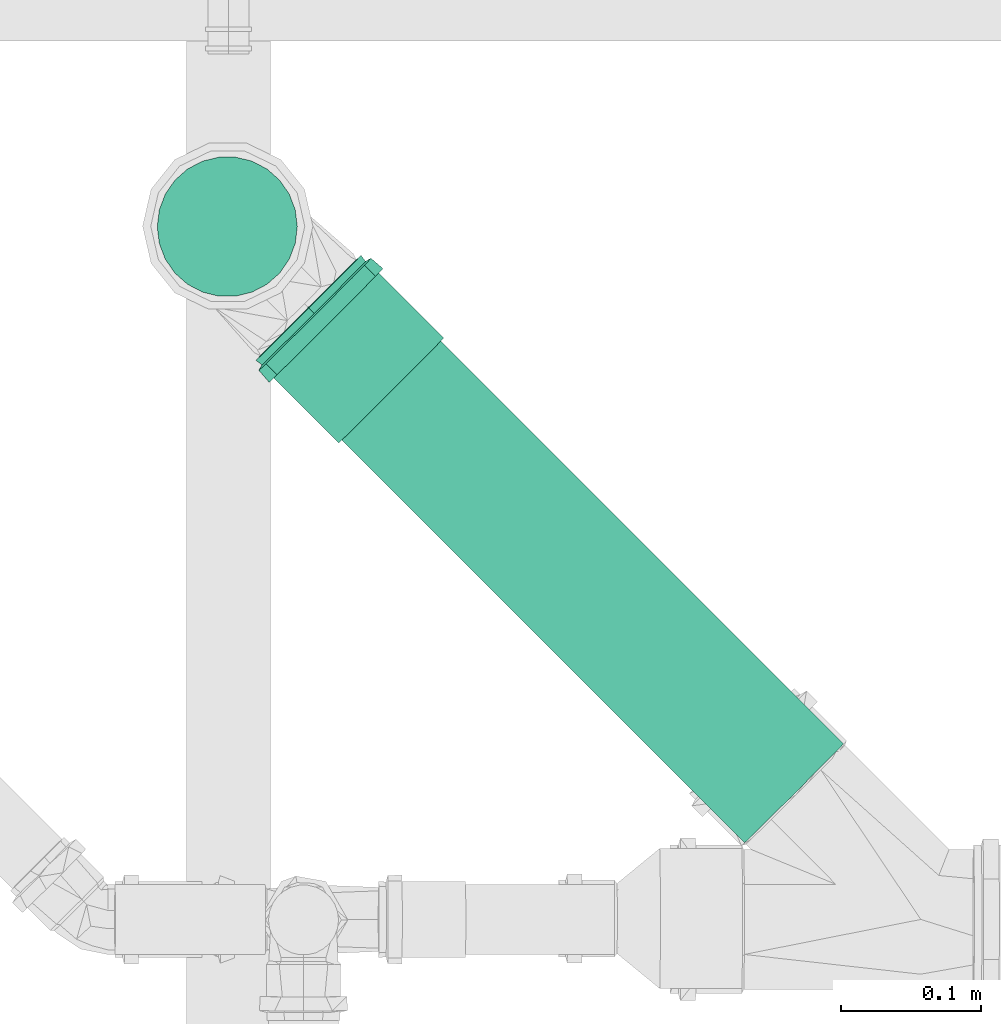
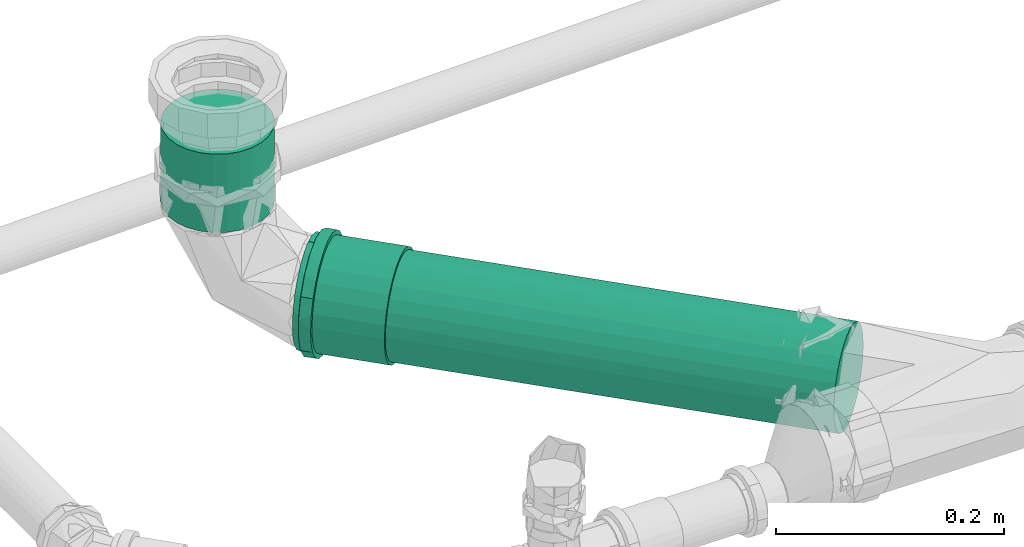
# One storey, part 285 of 589: 2 flow segments, 1 flow fitting.
"""IFC2X3 building model written with IfcOpenShell, lengths in millimetres."""

from ifc_helpers import new_model, entity, si_unit, converted_unit, derived_unit, direction, frame, frame_2d, origin, origin_2d_with_axis, place, context, subcontext, project, spatial, circle, extrude, faceted_brep, source, transform, mapped, material, type_object, type_shapes, element, save


model = new_model("IFC2X3")

# Units and contexts
model_context = context("Model", 3, precision=0.01, world=origin(), true_north=direction((6.123031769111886e-17, 1.0)))
body_context = subcontext(model_context, "Body", "Model", "MODEL_VIEW")
ifc_project = project(units=[si_unit("LENGTHUNIT", "METRE", prefix="MILLI"), si_unit("AREAUNIT", "SQUARE_METRE"), si_unit("VOLUMEUNIT", "CUBIC_METRE"), converted_unit("PLANEANGLEUNIT", "DEGREE", entity("IfcRatioMeasure", 0.017453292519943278), si_unit("PLANEANGLEUNIT", "RADIAN"), dimensions=[0, 0, 0, 0, 0, 0, 0]), si_unit("MASSUNIT", "GRAM", prefix="KILO"), derived_unit("MASSDENSITYUNIT", [(si_unit("MASSUNIT", "GRAM", prefix="KILO"), 1), (si_unit("LENGTHUNIT", "METRE"), -3)]), derived_unit("IONCONCENTRATIONUNIT", [(si_unit("MASSUNIT", "GRAM", prefix="KILO"), 1), (si_unit("LENGTHUNIT", "METRE"), -3)]), derived_unit("MOMENTOFINERTIAUNIT", [(si_unit("LENGTHUNIT", "METRE"), 4)]), si_unit("TIMEUNIT", "SECOND"), si_unit("FREQUENCYUNIT", "HERTZ"), si_unit("THERMODYNAMICTEMPERATUREUNIT", "DEGREE_CELSIUS"), derived_unit("THERMALTRANSMITTANCEUNIT", [(si_unit("MASSUNIT", "GRAM", prefix="KILO"), 1), (si_unit("THERMODYNAMICTEMPERATUREUNIT", "KELVIN"), -1), (si_unit("TIMEUNIT", "SECOND"), -3)]), derived_unit("THERMALCONDUCTANCEUNIT", [(si_unit("MASSUNIT", "GRAM", prefix="KILO"), 1), (si_unit("THERMODYNAMICTEMPERATUREUNIT", "KELVIN"), -1), (si_unit("TIMEUNIT", "SECOND"), -3), (si_unit("LENGTHUNIT", "METRE"), 1)]), derived_unit("VOLUMETRICFLOWRATEUNIT", [(si_unit("LENGTHUNIT", "METRE"), 3), (si_unit("TIMEUNIT", "SECOND"), -1)]), derived_unit("MASSFLOWRATEUNIT", [(si_unit("MASSUNIT", "GRAM", prefix="KILO"), 1), (si_unit("TIMEUNIT", "SECOND"), -1)]), derived_unit("ROTATIONALFREQUENCYUNIT", [(si_unit("TIMEUNIT", "SECOND"), -1)]), si_unit("ELECTRICCURRENTUNIT", "AMPERE"), si_unit("ELECTRICVOLTAGEUNIT", "VOLT"), si_unit("POWERUNIT", "WATT"), si_unit("FORCEUNIT", "NEWTON", prefix="KILO"), si_unit("ILLUMINANCEUNIT", "LUX"), si_unit("LUMINOUSFLUXUNIT", "LUMEN"), si_unit("LUMINOUSINTENSITYUNIT", "CANDELA"), derived_unit("USERDEFINED", [(si_unit("MASSUNIT", "GRAM", prefix="KILO"), -1), (si_unit("LENGTHUNIT", "METRE"), -2), (si_unit("TIMEUNIT", "SECOND"), 3), (si_unit("LUMINOUSFLUXUNIT", "LUMEN"), 1)]), derived_unit("USERDEFINED", [(si_unit("MASSUNIT", "GRAM", prefix="KILO"), 1), (si_unit("TIMEUNIT", "SECOND"), -3), (si_unit("LENGTHUNIT", "METRE"), 3), (si_unit("ELECTRICCURRENTUNIT", "AMPERE"), -2)]), derived_unit("SOUNDPOWERUNIT", [(si_unit("MASSUNIT", "GRAM", prefix="KILO"), 1), (si_unit("TIMEUNIT", "SECOND"), -3), (si_unit("LENGTHUNIT", "METRE"), 2)]), derived_unit("SOUNDPRESSUREUNIT", [(si_unit("MASSUNIT", "GRAM", prefix="KILO"), 1), (si_unit("LENGTHUNIT", "METRE"), -1), (si_unit("TIMEUNIT", "SECOND"), -2)]), derived_unit("LINEARVELOCITYUNIT", [(si_unit("LENGTHUNIT", "METRE"), 1), (si_unit("TIMEUNIT", "SECOND"), -1)]), si_unit("PRESSUREUNIT", "PASCAL"), derived_unit("USERDEFINED", [(si_unit("MASSUNIT", "GRAM", prefix="KILO"), 1), (si_unit("LENGTHUNIT", "METRE"), -2), (si_unit("TIMEUNIT", "SECOND"), -2)]), derived_unit("LINEARFORCEUNIT", [(si_unit("MASSUNIT", "GRAM", prefix="KILO"), 1), (si_unit("TIMEUNIT", "SECOND"), -2)]), derived_unit("PLANARFORCEUNIT", [(si_unit("MASSUNIT", "GRAM", prefix="KILO"), 1), (si_unit("LENGTHUNIT", "METRE"), -1), (si_unit("TIMEUNIT", "SECOND"), -2)]), derived_unit("SPECIFICHEATCAPACITYUNIT", [(si_unit("THERMODYNAMICTEMPERATUREUNIT", "KELVIN"), -1), (si_unit("LENGTHUNIT", "METRE"), 2), (si_unit("TIMEUNIT", "SECOND"), -2)]), derived_unit("HEATINGVALUEUNIT", [(si_unit("LENGTHUNIT", "METRE"), 2), (si_unit("TIMEUNIT", "SECOND"), -2)]), derived_unit("VAPORPERMEABILITYUNIT", [(si_unit("LENGTHUNIT", "METRE"), -1), (si_unit("TIMEUNIT", "SECOND"), 1)]), derived_unit("DYNAMICVISCOSITYUNIT", [(si_unit("MASSUNIT", "GRAM", prefix="KILO"), 1), (si_unit("TIMEUNIT", "SECOND"), -1), (si_unit("LENGTHUNIT", "METRE"), -1)]), derived_unit("THERMALEXPANSIONCOEFFICIENTUNIT", [(si_unit("THERMODYNAMICTEMPERATUREUNIT", "KELVIN"), -1)]), derived_unit("MODULUSOFELASTICITYUNIT", [(si_unit("MASSUNIT", "GRAM", prefix="KILO"), 1), (si_unit("LENGTHUNIT", "METRE"), -1), (si_unit("TIMEUNIT", "SECOND"), -2)]), derived_unit("ISOTHERMALMOISTURECAPACITYUNIT", [(si_unit("LENGTHUNIT", "METRE"), 3), (si_unit("MASSUNIT", "GRAM", prefix="KILO"), -1)]), derived_unit("MOISTUREDIFFUSIVITYUNIT", [(si_unit("TIMEUNIT", "SECOND"), -1), (si_unit("LENGTHUNIT", "METRE"), 2)])], contexts=[model_context])

# Site, building, storey
site_placement = place(None, origin())
site = spatial("IfcSite", under=ifc_project, at=site_placement, Name="Default", CompositionType="ELEMENT")
building_placement = place(site_placement, origin())
building = spatial("IfcBuilding", under=site, at=building_placement, CompositionType="ELEMENT")
storey_placement = place(building_placement, frame((0.0, 0.0, 100.0)))
storey = spatial("IfcBuildingStorey", under=building, at=storey_placement, Name="TÉRREO", CompositionType="ELEMENT", Elevation=100.0)

# Flow segments
pipe_segment_type = type_object("IfcPipeSegmentType", Name="Tipos de tubos:PVC Esgoto Série Normal", PredefinedType="NOTDEFINED")
flow_segment_1_placement = place(storey_placement, origin())
element("IfcFlowSegment", 1, at=flow_segment_1_placement, inside=storey, type_object=pipe_segment_type, Name="Tipos de tubos:PVC Esgoto Série Normal", ObjectType="Tipos de tubos:PVC Esgoto Série Normal", context=body_context, shape_type="SweptSolid", body=[
    extrude(circle(Radius=50.0, at=frame_2d((0.0, -3.3838751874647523e-14), x_axis=(1.0, 0.0))), frame((6458.527878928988, 6788.692753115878, -219.85893770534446), z_axis=(-0.7071067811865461, 0.7070714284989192, 0.0070707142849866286), x_axis=(-0.7070891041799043, -0.7071244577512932, 0.0)), (0.0, 0.0, 1.0), 490.3068071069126),
])
flow_segment_2_placement = place(storey_placement, origin())
element("IfcFlowSegment", 2, at=flow_segment_2_placement, inside=storey, type_object=pipe_segment_type, Name="Tipos de tubos:PVC Esgoto Série Normal", ObjectType="Tipos de tubos:PVC Esgoto Série Normal", context=body_context, shape_type="SweptSolid", body=[
    extrude(circle(Radius=50.0, at=origin_2d_with_axis()), frame((6053.880912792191, 7193.31948842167, -133.8622499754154)), (0.0, 0.0, 1.0), 83.86224997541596),
])

# Flow fitting
ifc_material = material(Name="PVC Série Normal")
pipe_fitting_type = type_object("IfcPipeFittingType", Name="PVC Esgoto_Luva Simples para Conexão_Rodrigo MEP:Standard", PredefinedType="NOTDEFINED", material=ifc_material)
shared_shape = source(origin(), body_context, "Body", "Brep", [
    faceted_brep([(17.770000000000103, 28.72500000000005, -49.753159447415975), (17.770000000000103, 40.62328457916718, -40.62328457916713), (17.770000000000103, 26.524999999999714, -45.94264767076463), (17.770000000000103, 13.730350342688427, -51.242365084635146), (17.770000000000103, 14.86915414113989, -55.49243872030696), (17.770000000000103, 37.5120147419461, -37.51201474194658), (17.770000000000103, 49.75315944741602, -28.724999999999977), (17.770000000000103, 45.94264767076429, -26.52500000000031), (17.770000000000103, 51.24236508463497, -13.730350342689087), (17.770000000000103, 55.49243872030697, -14.869154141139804), (17.770000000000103, 53.05, 0.0), (17.770000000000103, 57.45, 0.0), (17.770000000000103, 51.242365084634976, 13.730350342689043), (17.770000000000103, 55.49243872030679, 14.869154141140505), (17.770000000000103, 45.942647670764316, 26.52500000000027), (17.770000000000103, 49.753159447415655, 28.725000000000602), (17.770000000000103, 37.51201474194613, 37.51201474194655), (17.770000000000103, 40.62328457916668, 40.62328457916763), (17.770000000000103, 26.524999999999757, 45.9426476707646), (17.770000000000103, 28.72499999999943, 49.75315944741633), (17.770000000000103, 13.730350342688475, 51.24236508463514), (17.770000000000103, 14.8691541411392, 55.49243872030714), (17.770000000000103, 0.0, 53.05), (17.770000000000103, 0.0, 57.45), (17.770000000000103, -13.730350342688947, 51.24236508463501), (17.770000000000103, -14.869154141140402, 55.49243872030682), (17.770000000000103, -26.52500000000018, 45.94264767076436), (17.770000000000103, -28.725000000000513, 49.753159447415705), (17.770000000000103, -37.51201474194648, 37.5120147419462), (17.770000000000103, -40.62328457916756, 40.62328457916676), (17.770000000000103, -45.94264767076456, 26.524999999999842), (17.770000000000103, -49.7531594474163, 28.724999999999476), (17.770000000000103, -55.49243872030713, 14.869154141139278), (17.770000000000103, -51.24236508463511, 13.730350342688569), (17.770000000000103, -57.45, 0.0), (17.770000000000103, -53.05, 0.0), (17.770000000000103, -55.49243872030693, -14.86915414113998), (17.770000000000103, -51.24236508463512, -13.73035034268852), (17.770000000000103, -49.75315944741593, -28.72500000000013), (17.770000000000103, -45.942647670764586, -26.5249999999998), (17.770000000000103, -40.62328457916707, -40.62328457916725), (17.770000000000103, -37.512014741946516, -37.51201474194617), (17.770000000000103, -28.724999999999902, -49.75315944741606), (17.770000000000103, -26.525000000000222, -45.94264767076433), (17.770000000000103, -14.869154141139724, -55.492438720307), (17.770000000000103, -13.730350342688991, -51.242365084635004), (17.770000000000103, 0.0, -57.45), (17.770000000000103, 0.0, -53.05), (6.570000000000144, -19.34638876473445, 53.16657713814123), (6.57000000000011, -44.00761900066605, 36.93009572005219), (6.5700000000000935, -48.99626263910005, 28.290173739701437), (6.5700000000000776, -53.98490627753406, 19.65025175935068), (6.570000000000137, -28.721697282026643, 49.75506612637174), (6.570000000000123, -36.36465814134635, 43.34258092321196), (6.57000000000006, -55.71745313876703, 9.825125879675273), (6.570000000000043, -57.45, 0.0), (6.570000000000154, -9.971080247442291, 56.57808814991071), (6.570000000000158, 9.98234714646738, 56.576101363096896), (6.570000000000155, 0.005633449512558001, 56.577094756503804), (6.570000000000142, 36.37328876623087, 43.33533831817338), (6.570000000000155, 19.356976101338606, 53.16272339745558), (6.570000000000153, 28.73160505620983, 49.749345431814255), (6.5700000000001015, 53.988818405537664, 19.639500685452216), (6.570000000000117, 49.00189544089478, 28.280415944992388), (6.570000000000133, 44.01497247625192, 36.921331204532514), (6.570000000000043, 57.45, 0.0), (6.569999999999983, 44.01497247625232, -36.92133120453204), (6.569999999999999, 49.0018954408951, -28.280415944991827), (6.570000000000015, 53.98881840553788, -19.63950068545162), (6.569999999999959, 28.731605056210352, -49.74934543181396), (6.569999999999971, 36.37328876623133, -43.335338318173), (6.569999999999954, 19.35697610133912, -53.16272339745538), (6.569999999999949, 9.982347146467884, -56.57610136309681), (6.569999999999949, -9.97108024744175, -56.578088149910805), (6.569999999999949, 0.005633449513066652, -56.577094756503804), (6.569999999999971, -36.364658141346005, -43.34258092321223), (6.56999999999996, -28.72169728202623, -49.755066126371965), (6.569999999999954, -19.346388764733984, -53.16657713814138), (6.57000000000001, -53.984906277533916, -19.650251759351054), (6.569999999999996, -48.99626263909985, -28.290173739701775), (6.569999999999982, -44.007619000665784, -36.93009572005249), (6.570000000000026, -55.717453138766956, -9.825125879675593), (83.52000000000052, 26.525000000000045, -45.942647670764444), (83.52000000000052, 37.512014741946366, -37.51201474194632), (83.52000000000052, 25.0, -43.301270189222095), (83.52000000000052, 12.940952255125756, -48.2962913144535), (83.52000000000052, 13.73035034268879, -51.242365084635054), (83.52000000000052, 35.35533905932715, -35.355339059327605), (83.52000000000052, 45.94264767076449, -26.524999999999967), (83.52000000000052, 43.30127018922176, -25.0), (83.52000000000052, 48.29629131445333, -12.940952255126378), (83.52000000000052, 51.24236508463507, -13.730350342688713), (83.52000000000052, 50.0, 0.0), (83.52000000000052, 53.05, 0.0), (83.52000000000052, 48.296291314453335, 12.940952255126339), (83.52000000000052, 51.2423650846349, 13.73035034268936), (83.52000000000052, 43.30127018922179, 25.0), (83.52000000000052, 45.942647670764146, 26.525000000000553), (83.52000000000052, 35.35533905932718, 35.35533905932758), (83.52000000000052, 37.512014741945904, 37.512014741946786), (83.52000000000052, 25.0, 43.301270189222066), (83.52000000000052, 26.52499999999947, 45.94264767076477), (83.52000000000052, 12.9409522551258, 48.29629131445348), (83.52000000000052, 13.730350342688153, 51.242365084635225), (83.52000000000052, 0.0, 50.0), (83.52000000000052, 0.0, 53.05), (83.52000000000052, -12.94095225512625, 48.296291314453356), (83.52000000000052, -13.730350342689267, 51.24236508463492), (83.52000000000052, -25.0, 43.30127018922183), (83.52000000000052, -26.525000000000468, 45.942647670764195), (83.52000000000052, -35.355339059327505, 35.35533905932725), (83.52000000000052, -37.512014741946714, 37.51201474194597), (83.52000000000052, -43.30127018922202, 25.0), (83.52000000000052, -45.942647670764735, 26.524999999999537), (83.52000000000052, -51.24236508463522, 13.730350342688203), (83.52000000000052, -48.29629131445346, 12.94095225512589), (83.52000000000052, -53.05, 0.0), (83.52000000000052, -50.0, 0.0), (83.52000000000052, -51.242365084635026, -13.730350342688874), (83.52000000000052, -48.29629131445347, -12.940952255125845), (83.52000000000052, -45.9426476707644, -26.525000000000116), (83.52000000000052, -43.301270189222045, -25.0), (83.52000000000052, -37.51201474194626, -37.51201474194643), (83.52000000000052, -35.35533905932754, -35.355339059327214), (83.52000000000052, -26.524999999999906, -45.94264767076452), (83.52000000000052, -25.0, -43.30127018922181), (83.52000000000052, -13.730350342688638, -51.2423650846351), (83.52000000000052, -12.94095225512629, -48.29629131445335), (83.52000000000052, 0.0, -53.05), (83.52000000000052, 0.0, -50.0), (0.0, 25.0, -43.301270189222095), (0.0, 37.512014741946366, -37.51201474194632), (0.0, 26.525000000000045, -45.942647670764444), (0.0, 12.940952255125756, -48.2962913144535), (0.0, 35.35533905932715, -35.355339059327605), (0.0, 45.94264767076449, -26.524999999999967), (0.0, 43.30127018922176, -25.0), (0.0, 48.29629131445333, -12.940952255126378), (0.0, 51.24236508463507, -13.730350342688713), (0.0, 50.0, 0.0), (0.0, 53.05, 0.0), (0.0, 48.296291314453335, 12.940952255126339), (0.0, 51.2423650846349, 13.73035034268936), (0.0, 43.30127018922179, 25.0), (0.0, 45.942647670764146, 26.525000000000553), (0.0, 35.35533905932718, 35.35533905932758), (0.0, 37.512014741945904, 37.512014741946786), (0.0, 25.0, 43.301270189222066), (0.0, 26.52499999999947, 45.94264767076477), (0.0, 12.9409522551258, 48.29629131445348), (0.0, 13.730350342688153, 51.242365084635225), (0.0, 0.0, 50.0), (0.0, 0.0, 53.05), (0.0, -12.94095225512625, 48.296291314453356), (0.0, -13.730350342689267, 51.24236508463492), (0.0, -25.0, 43.30127018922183), (0.0, -26.525000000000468, 45.942647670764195), (0.0, -35.355339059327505, 35.35533905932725), (0.0, -37.512014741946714, 37.51201474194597), (0.0, -43.30127018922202, 25.0), (0.0, -45.942647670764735, 26.524999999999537), (0.0, -51.24236508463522, 13.730350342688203), (0.0, -48.29629131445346, 12.94095225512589), (0.0, -53.05, 0.0), (0.0, -50.0, 0.0), (0.0, -51.242365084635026, -13.730350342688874), (0.0, -48.29629131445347, -12.940952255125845), (0.0, -45.9426476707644, -26.525000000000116), (0.0, -43.301270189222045, -25.0), (0.0, -37.51201474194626, -37.51201474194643), (0.0, -35.35533905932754, -35.355339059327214), (0.0, -26.524999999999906, -45.94264767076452), (0.0, -25.0, -43.30127018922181), (0.0, -13.730350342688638, -51.2423650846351), (0.0, -12.94095225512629, -48.29629131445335), (0.0, 0.0, -53.05), (0.0, 0.0, -50.0), (0.0, 13.73035034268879, -51.242365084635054), (5.370000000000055, -53.05, 0.0), (5.370000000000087, -49.85079898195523, 18.143878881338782), (5.370000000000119, -40.63905406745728, 34.09941032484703), (5.370000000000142, -26.525801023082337, 45.942185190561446), (5.3700000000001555, -9.213250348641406, 52.24383712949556), (5.370000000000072, 51.44992493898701, 9.073243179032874), (5.370000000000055, 53.05, 0.0), (5.370000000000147, 26.523397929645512, 45.943572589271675), (5.370000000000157, 9.210517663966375, 52.244318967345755), (5.3700000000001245, 40.63727040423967, 34.10153594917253), (5.370000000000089, 49.84984987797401, 18.146486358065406), (5.370000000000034, 51.4499249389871, -9.073243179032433), (5.370000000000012, 49.84984987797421, -18.146486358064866), (5.369999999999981, 40.63727040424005, -34.101535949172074), (5.36999999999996, 26.523397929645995, -45.9435725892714), (5.369999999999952, 9.21051766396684, -52.24431896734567), (5.369999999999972, -26.52580102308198, -45.94218519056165), (5.369999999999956, -9.213250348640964, -52.24383712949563), (5.369999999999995, -40.63905406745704, -34.099410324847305), (5.370000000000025, -49.8507989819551, -18.143878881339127), (50.0, -50.0, 0.0), (50.0, 50.0, 0.0)], [[[0, 1, 2]], [[0, 2, 3]], [[3, 4, 0]], [[2, 1, 5]], [[6, 5, 1]], [[5, 6, 7]], [[7, 6, 8]], [[9, 8, 6]], [[9, 10, 8]], [[10, 9, 11]], [[12, 10, 11]], [[11, 13, 12]], [[12, 13, 14]], [[15, 14, 13]], [[14, 15, 16]], [[16, 15, 17]], [[18, 16, 17]], [[17, 19, 18]], [[18, 19, 20]], [[21, 20, 19]], [[20, 21, 22]], [[22, 21, 23]], [[22, 23, 24]], [[24, 23, 25]], [[24, 25, 26]], [[27, 26, 25]], [[27, 28, 26]], [[28, 27, 29]], [[29, 30, 28]], [[31, 30, 29]], [[30, 31, 32]], [[32, 33, 30]], [[34, 33, 32]], [[34, 35, 33]], [[36, 35, 34]], [[36, 37, 35]], [[37, 36, 38]], [[38, 39, 37]], [[39, 38, 40]], [[39, 40, 41]], [[40, 42, 41]], [[41, 42, 43]], [[43, 42, 44]], [[44, 45, 43]], [[46, 45, 44]], [[4, 47, 46]], [[46, 47, 45]], [[4, 3, 47]], [[48, 27, 25]], [[31, 29, 49]], [[31, 49, 50, 51]], [[52, 53, 27]], [[32, 51, 54]], [[54, 55, 34]], [[54, 34, 32]], [[25, 56, 48]], [[49, 29, 53]], [[23, 57, 58, 56]], [[59, 19, 17]], [[27, 53, 29]], [[48, 52, 27]], [[31, 51, 32]], [[57, 23, 21]], [[60, 19, 61]], [[15, 62, 63, 64]], [[19, 60, 21]], [[15, 13, 62]], [[17, 64, 59]], [[57, 21, 60]], [[23, 56, 25]], [[15, 64, 17]], [[13, 65, 62]], [[13, 11, 65]], [[59, 61, 19]], [[65, 11, 9]], [[6, 1, 66]], [[6, 66, 67, 68]], [[69, 70, 0]], [[68, 65, 9]], [[71, 69, 0]], [[71, 0, 4]], [[4, 72, 71]], [[66, 1, 70]], [[46, 73, 74, 72]], [[75, 76, 42]], [[0, 70, 1]], [[75, 42, 40]], [[6, 68, 9]], [[73, 46, 44]], [[77, 42, 76]], [[38, 78, 79, 80]], [[42, 77, 44]], [[38, 36, 78]], [[40, 80, 75]], [[73, 44, 77]], [[46, 72, 4]], [[38, 80, 40]], [[81, 78, 36]], [[55, 81, 34]], [[34, 81, 36]], [[82, 83, 84]], [[82, 84, 85]], [[85, 86, 82]], [[84, 83, 87]], [[88, 87, 83]], [[87, 88, 89]], [[89, 88, 90]], [[91, 90, 88]], [[91, 92, 90]], [[92, 91, 93]], [[94, 92, 93]], [[93, 95, 94]], [[94, 95, 96]], [[97, 96, 95]], [[96, 97, 98]], [[98, 97, 99]], [[100, 98, 99]], [[99, 101, 100]], [[100, 101, 102]], [[103, 102, 101]], [[102, 103, 104]], [[104, 103, 105]], [[104, 105, 106]], [[106, 105, 107]], [[106, 107, 108]], [[109, 108, 107]], [[110, 108, 109]], [[110, 109, 111]], [[111, 112, 110]], [[113, 112, 111]], [[112, 113, 114]], [[114, 115, 112]], [[116, 115, 114]], [[116, 117, 115]], [[118, 117, 116]], [[118, 119, 117]], [[119, 118, 120]], [[120, 121, 119]], [[121, 120, 122]], [[121, 122, 123]], [[122, 124, 123]], [[125, 123, 124]], [[125, 124, 126]], [[126, 127, 125]], [[128, 127, 126]], [[86, 129, 128]], [[128, 129, 127]], [[86, 85, 129]], [[130, 131, 132]], [[133, 130, 132]], [[134, 131, 130]], [[131, 134, 135]], [[136, 135, 134]], [[137, 135, 136]], [[135, 137, 138]], [[137, 139, 138]], [[140, 138, 139]], [[140, 139, 141]], [[141, 142, 140]], [[143, 142, 141]], [[142, 143, 144]], [[145, 144, 143]], [[146, 144, 145]], [[146, 145, 147]], [[147, 148, 146]], [[149, 148, 147]], [[148, 149, 150]], [[151, 150, 149]], [[152, 150, 151]], [[153, 152, 151]], [[154, 152, 153]], [[155, 154, 153]], [[154, 155, 156]], [[156, 155, 157]], [[158, 156, 157]], [[157, 159, 158]], [[158, 159, 160]], [[161, 160, 159]], [[159, 162, 161]], [[161, 162, 163]], [[162, 164, 163]], [[163, 164, 165]], [[164, 166, 165]], [[167, 165, 166]], [[166, 168, 167]], [[169, 167, 168]], [[170, 169, 168]], [[170, 171, 169]], [[171, 170, 172]], [[173, 171, 172]], [[172, 174, 173]], [[173, 174, 175]], [[174, 176, 175]], [[176, 133, 177]], [[175, 176, 177]], [[132, 177, 133]], [[161, 178, 179]], [[158, 180, 181]], [[179, 180, 160]], [[181, 182, 154]], [[179, 160, 161]], [[161, 163, 178]], [[35, 116, 114, 33]], [[183, 184, 140]], [[181, 156, 158]], [[158, 160, 180]], [[181, 154, 156]], [[182, 152, 154]], [[183, 140, 142]], [[185, 150, 186]], [[187, 146, 185]], [[142, 188, 183]], [[187, 188, 144]], [[185, 148, 150]], [[150, 152, 186]], [[187, 144, 146]], [[146, 148, 185]], [[188, 142, 144]], [[186, 152, 182]], [[189, 190, 138]], [[131, 191, 192]], [[190, 191, 135]], [[192, 193, 177]], [[190, 135, 138]], [[184, 189, 140]], [[192, 132, 131]], [[131, 135, 191]], [[192, 177, 132]], [[193, 175, 177]], [[140, 189, 138]], [[194, 173, 195]], [[196, 169, 194]], [[165, 197, 178]], [[196, 197, 167]], [[165, 178, 163]], [[35, 37, 118, 116]], [[194, 171, 173]], [[173, 175, 195]], [[196, 167, 169]], [[169, 171, 194]], [[197, 165, 167]], [[195, 175, 193]], [[115, 117, 198, 164, 162]], [[155, 108, 110, 157]], [[110, 112, 159, 157]], [[112, 115, 162, 159]], [[106, 108, 155, 153]], [[153, 151, 104, 106]], [[102, 104, 151, 149]], [[102, 149, 147, 100]], [[141, 94, 96, 143]], [[96, 98, 145, 143]], [[98, 100, 147, 145]], [[92, 94, 141, 139, 199]], [[199, 139, 137, 90, 92]], [[87, 89, 136, 134]], [[134, 130, 84, 87]], [[89, 90, 137, 136]], [[85, 84, 130, 133]], [[133, 176, 129, 85]], [[127, 129, 176, 174]], [[127, 174, 172, 125]], [[166, 119, 121, 168]], [[121, 123, 170, 168]], [[123, 125, 172, 170]], [[117, 119, 166, 164, 198]], [[81, 178, 197]], [[190, 68, 67]], [[194, 75, 196]], [[193, 72, 74]], [[195, 77, 194]], [[79, 197, 196]], [[81, 55, 178]], [[192, 69, 71]], [[79, 78, 197]], [[194, 77, 76]], [[191, 66, 70]], [[80, 196, 75]], [[68, 190, 189]], [[74, 195, 193]], [[192, 71, 193]], [[190, 67, 191]], [[70, 192, 191]], [[65, 189, 184]], [[195, 73, 77]], [[193, 71, 72]], [[197, 78, 81]], [[191, 67, 66]], [[189, 65, 68]], [[196, 80, 79]], [[70, 69, 192]], [[194, 76, 75]], [[73, 195, 74]], [[65, 183, 62]], [[48, 56, 182]], [[58, 182, 56]], [[54, 51, 179]], [[59, 185, 61]], [[60, 186, 57]], [[53, 52, 181]], [[63, 187, 64]], [[58, 57, 186]], [[187, 63, 188]], [[186, 60, 185]], [[50, 49, 180]], [[185, 59, 187]], [[59, 64, 187]], [[182, 58, 186]], [[50, 179, 51]], [[54, 178, 55]], [[53, 180, 49]], [[63, 62, 188]], [[181, 48, 182]], [[183, 65, 184]], [[179, 50, 180]], [[178, 54, 179]], [[183, 188, 62]], [[180, 53, 181]], [[60, 61, 185]], [[48, 181, 52]], [[30, 33, 114, 113]], [[26, 28, 111, 109]], [[113, 111, 28, 30]], [[107, 24, 26, 109]], [[107, 105, 22, 24]], [[18, 20, 103, 101]], [[99, 16, 18, 101]], [[12, 14, 97, 95]], [[99, 97, 14, 16]], [[10, 12, 95, 93]], [[103, 20, 22, 105]], [[91, 8, 10, 93]], [[88, 7, 8, 91]], [[82, 86, 3, 2]], [[83, 5, 7, 88]], [[2, 5, 83, 82]], [[86, 128, 47, 3]], [[43, 45, 126, 124]], [[122, 41, 43, 124]], [[37, 39, 120, 118]], [[122, 120, 39, 41]], [[126, 45, 47, 128]]]),
])
type_shapes(pipe_fitting_type, [shared_shape])
flow_fitting_placement = place(storey_placement, frame((6111.828610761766, 7135.3746876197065, -216.39211836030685), z_axis=(-0.7070891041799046, -0.7071244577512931, 0.0), x_axis=(0.707106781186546, -0.7070714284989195, -0.007070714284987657)))
element("IfcFlowFitting", 3, at=flow_fitting_placement, inside=storey, type_object=pipe_fitting_type, material=ifc_material, Name="PVC Esgoto_Luva Simples para Conexão_Rodrigo MEP:Standard", ObjectType="PVC Esgoto_Luva Simples para Conexão_Rodrigo MEP:Standard", context=body_context, shape_type="MappedRepresentation", body=[
    mapped(shared_shape, transform((0.0, 0.0, 0.0), scale=1.0)),
])

save(model, "model.ifc")
